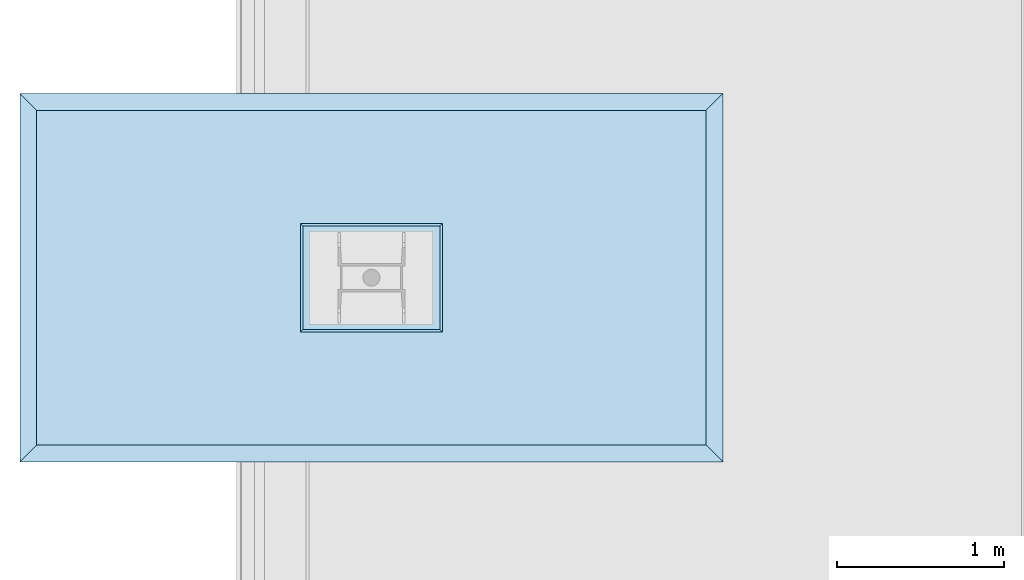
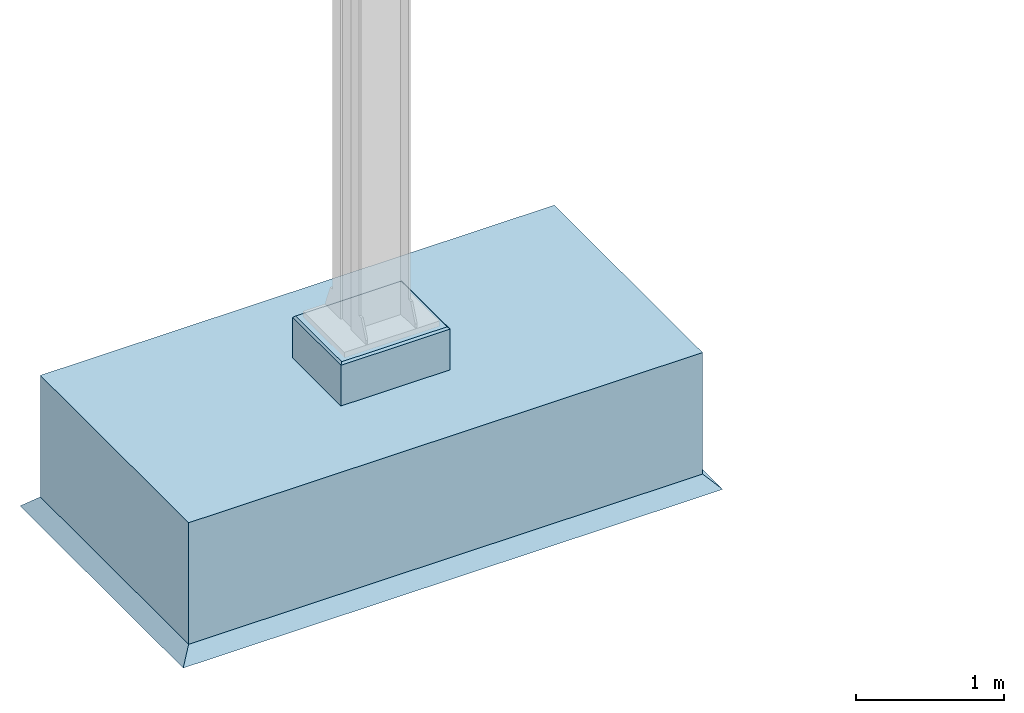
# One storey, part 1 of 2: 1 slab.
"""IFC4 building model written with IfcOpenShell, lengths in metres."""

from ifc_helpers import new_model, entity, si_unit, converted_unit, direction, origin, place, context, subcontext, project, spatial, polygons, material, type_object, element, save


model = new_model("IFC4")

# Units and contexts
model_context = context("Model", 3, precision=1e-05, world=origin(), true_north=direction((6.123031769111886e-17, 1.0)))
body_context = subcontext(model_context, "Body", "Model", "MODEL_VIEW")
ifc_project = project(units=[si_unit("LENGTHUNIT", "METRE"), converted_unit("PLANEANGLEUNIT", "DEGREE", entity("IfcPlaneAngleMeasure", 0.017453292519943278), si_unit("PLANEANGLEUNIT", "RADIAN"), dimensions=[0, 0, 0, 0, 0, 0, 0])], contexts=[model_context])

# Site, building, storey
site_placement = place(None, origin())
site = spatial("IfcSite", under=ifc_project, at=site_placement, Name="Default", CompositionType="ELEMENT")
building_placement = place(site_placement, origin())
building = spatial("IfcBuilding", under=site, at=building_placement, CompositionType="ELEMENT")
storey_placement = place(building_placement, origin())
storey = spatial("IfcBuildingStorey", under=building, at=storey_placement, Name="DB_Bezugshoehe_max_Bahnsteigkante", CompositionType="ELEMENT", Elevation=0.0)

# Slab
ifc_material = material(Name="DB_Ortbeton", Category="DB_Beton")
slab_type = type_object("IfcSlabType", Name="DB_Systemdach_Fundament_Typ4:Variante1", PredefinedType="BASESLAB", material=ifc_material)
slab_placement = place(storey_placement, origin())
element("IfcSlab", 1, at=slab_placement, inside=storey, type_object=slab_type, Name="DB_Systemdach_Fundament_Typ4:Variante1", ObjectType="DB_Systemdach_Fundament_Typ4:Variante1", PredefinedType="BASESLAB", context=body_context, shape_type="Tessellation", body=[
    polygons([(2.0000000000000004, 1.1747723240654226, -0.2500000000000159), (-1.9999999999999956, 1.1747723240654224, -0.2500000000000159), (-1.9999999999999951, -0.8252276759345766, -0.2500000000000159), (2.0000000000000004, -0.8252276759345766, -0.2500000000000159), (2.0000000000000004, 1.1747723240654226, -1.2500000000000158), (2.0000000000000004, -0.8252276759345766, -1.2500000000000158), (-1.9999999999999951, -0.8252276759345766, -1.2500000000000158), (-1.9999999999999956, 1.1747723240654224, -1.2500000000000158)], [[[1, 2, 3, 4]], [[5, 6, 7, 8]], [[2, 1, 5, 8]], [[3, 2, 8, 7]], [[4, 3, 7, 6]], [[1, 4, 6, 5]]], closed=True),
    polygons([(1.9999999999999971, 1.1747723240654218, -1.2500000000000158), (-2.000000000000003, 1.1747723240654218, -1.2500000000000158), (-2.000000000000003, -0.8252276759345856, -1.2500000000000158), (1.999999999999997, -0.8252276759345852, -1.2500000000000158), (2.1000000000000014, 1.2747723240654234, -1.3500000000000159), (2.1000000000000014, -0.9252276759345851, -1.3500000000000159), (-2.1, -0.9252276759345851, -1.3500000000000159), (-2.1, 1.2747723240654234, -1.3500000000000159)], [[[1, 2, 3, 4]], [[5, 6, 7, 8]], [[5, 8, 2, 1]], [[8, 7, 3, 2]], [[7, 6, 4, 3]], [[6, 5, 1, 4]]], closed=True),
    polygons([(0.42499999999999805, 0.4997723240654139, 0.08500000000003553), (-0.42499999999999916, 0.4997723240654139, 0.08500000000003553), (-0.42499999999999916, -0.15022767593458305, 0.08500000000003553), (0.42499999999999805, -0.15022767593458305, 0.08500000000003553), (0.42499999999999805, 0.4997723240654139, -0.2500000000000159), (0.42499999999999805, -0.15022767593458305, -0.2500000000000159), (-0.42499999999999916, -0.15022767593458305, -0.2500000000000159), (-0.42499999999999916, 0.4997723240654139, -0.2500000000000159)], [[[1, 2, 3, 4]], [[5, 6, 7, 8]], [[2, 1, 5, 8]], [[3, 2, 8, 7]], [[4, 3, 7, 6]], [[1, 4, 6, 5]]], closed=True),
    polygons([(-0.4100000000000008, 0.48477232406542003, 0.09999999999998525), (-0.4100000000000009, -0.13522767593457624, 0.09999999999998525), (0.4099999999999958, -0.13522767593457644, 0.09999999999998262), (0.4099999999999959, 0.4847723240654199, 0.0999999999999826), (-0.4250000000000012, 0.49977232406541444, 0.08500000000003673), (0.424999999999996, 0.4997723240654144, 0.08500000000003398), (0.42499999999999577, -0.15022767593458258, 0.08500000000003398), (-0.4250000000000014, -0.15022767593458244, 0.08500000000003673)], [[[1, 2, 3, 4]], [[5, 6, 7, 8]], [[6, 5, 1, 4]], [[7, 6, 4, 3]], [[8, 7, 3, 2]], [[5, 8, 2, 1]]], closed=True),
])

save(model, "model.ifc")
